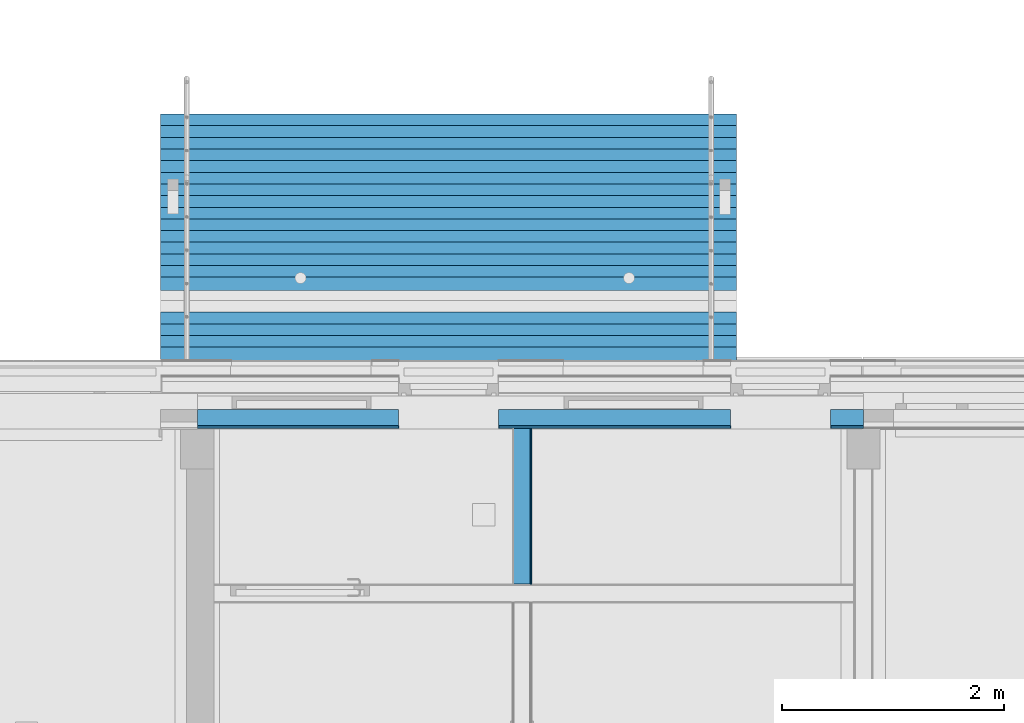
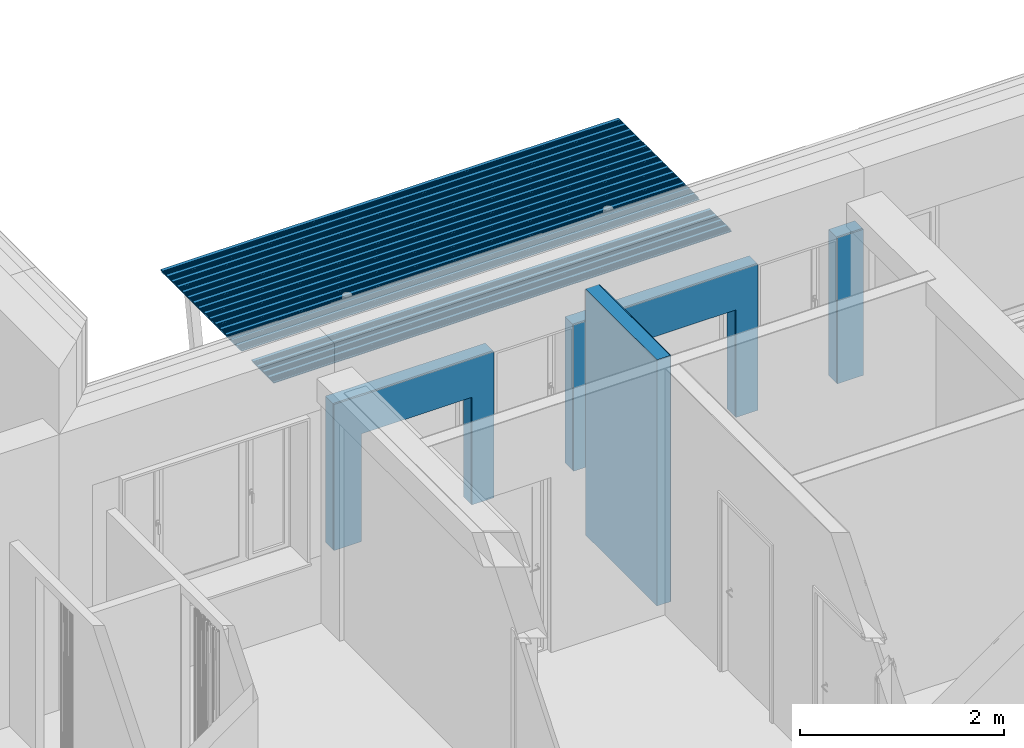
# One storey, part 35 of 418: 23 building element parts, 4 openings, 3 elements without a shape of their own.
"""IFC2X3 building model written with IfcOpenShell, lengths in millimetres."""

from ifc_helpers import new_model, entity, si_unit, converted_unit, derived_unit, money_unit, direction, frame, origin_with_axes, origin_2d_with_axis, place, context, subcontext, project, spatial, polyline, rectangle, outline, extrude, material, type_object, element, aggregate, save


model = new_model("IFC2X3")

# Units and contexts
model_context = context("Model", 3, precision=0.01, world=origin_with_axes(), true_north=direction((0.0, 1.0)))
body_context = subcontext(model_context, "Body", "Model", "MODEL_VIEW")
ifc_project = project(units=[si_unit("LENGTHUNIT", "METRE", prefix="MILLI"), si_unit("AREAUNIT", "SQUARE_METRE"), si_unit("VOLUMEUNIT", "CUBIC_METRE"), converted_unit("PLANEANGLEUNIT", "DEGREE", entity("IfcPlaneAngleMeasure", 0.0174532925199), si_unit("PLANEANGLEUNIT", "RADIAN"), dimensions=[0, 0, 0, 0, 0, 0, 0]), si_unit("SOLIDANGLEUNIT", "STERADIAN"), money_unit("EUR"), converted_unit("TIMEUNIT", "Year", entity("IfcTimeMeasure", 31556926.0), si_unit("TIMEUNIT", "SECOND"), dimensions=[0, 0, 1, 0, 0, 0, 0]), si_unit("MASSUNIT", "GRAM", prefix="KILO"), si_unit("THERMODYNAMICTEMPERATUREUNIT", "DEGREE_CELSIUS"), si_unit("LUMINOUSINTENSITYUNIT", "LUMEN"), si_unit("ENERGYUNIT", "JOULE", prefix="MEGA"), derived_unit("THERMALCONDUCTANCEUNIT", [(si_unit("POWERUNIT", "WATT"), 1), (si_unit("LENGTHUNIT", "METRE"), -1), (si_unit("THERMODYNAMICTEMPERATUREUNIT", "KELVIN"), -1)]), derived_unit("SPECIFICHEATCAPACITYUNIT", [(si_unit("ENERGYUNIT", "JOULE"), 1), (si_unit("MASSUNIT", "GRAM", prefix="KILO"), -1), (si_unit("THERMODYNAMICTEMPERATUREUNIT", "KELVIN"), -1)]), derived_unit("MASSDENSITYUNIT", [(si_unit("MASSUNIT", "GRAM", prefix="KILO"), 1), (si_unit("VOLUMEUNIT", "CUBIC_METRE"), -1)])], contexts=[model_context])

# Site, building, storey
site_placement = place(None, origin_with_axes())
site = spatial("IfcSite", under=ifc_project, at=site_placement, Name="Paldiski mnt 245/1, Tallinn, Harjumaa", CompositionType="COMPLEX")
building_placement = place(site_placement, origin_with_axes())
building = spatial("IfcBuilding", under=site, at=building_placement, Name="RKAS Hoone üldnimetus (kasutust iseloomustav) -> IFC Project Manager -> SOLIBRI", CompositionType="ELEMENT")
storey_placement = place(building_placement, origin_with_axes())
storey = spatial("IfcBuildingStorey", under=building, at=storey_placement, Name="Esimene korrus", CompositionType="ELEMENT", Elevation=0.0)

# Wall, building element parts
wall_type_1 = type_object("IfcWallType", Name="SS-04 170", PredefinedType="NOTDEFINED")
wall_1_placement = place(storey_placement, frame((-38430.0000894, -99.9999999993, 0.0), z_axis=(0.0, 0.0, 1.0), x_axis=(0.0, -1.0, 0.0)))
wall_1 = element("IfcWall", 1, at=wall_1_placement, inside=storey, type_object=wall_type_1, Name="SS-04")
ifc_material_1 = material(Name="Krohv")
building_element_part_1_placement = place(wall_1_placement, origin_with_axes())
building_element_part_1 = element("IfcBuildingElementPart", 2, at=building_element_part_1_placement, material=ifc_material_1, Name="Krohv", context=body_context, shape_type="SweptSolid", body=[
    extrude(outline(polyline([(0.0, -10.0), (1405.0, -10.0), (1405.0, 0.0), (0.0, 0.0), (0.0, -10.0)])), origin_with_axes(), (0.0, 0.0, 1.0), 2950.0),
])
ifc_material_2 = material(Name="FIBO 5")
building_element_part_2_placement = place(wall_1_placement, origin_with_axes())
building_element_part_2 = element("IfcBuildingElementPart", 3, at=building_element_part_2_placement, material=ifc_material_2, Name="FIBO 5", context=body_context, shape_type="SweptSolid", body=[
    extrude(outline(polyline([(0.0, -160.0), (1405.0, -160.0), (1405.0, -10.0), (0.0, -10.0), (0.0, -160.0)])), origin_with_axes(), (0.0, 0.0, 1.0), 2950.0),
])
aggregate(wall_1, [building_element_part_1, building_element_part_2])

# Proxy, building element parts
building_element_proxy_type = type_object("IfcBuildingElementProxyType", Name="Varikatus_01_lagi laudis_01 2220 x 21", PredefinedType="NOTDEFINED")
proxy_placement = place(storey_placement, frame((-41771.4167035, 2729.57010493, 2580.99999904), z_axis=(0.0, 0.0, 1.0), x_axis=(1.0, 0.0, 0.0)))
proxy = element("IfcBuildingElementProxy", 4, at=proxy_placement, inside=storey, type_object=building_element_proxy_type, Name="Varikatus")
ifc_material_3 = material(Name="Laudis 5072 Honka 45 horisontaalne raastas")
building_element_part_3_placement = place(proxy_placement, origin_with_axes())
building_element_part_3 = element("IfcBuildingElementPart", 5, at=building_element_part_3_placement, material=ifc_material_3, Name="Laudis 5072 Honka 45 horisontaalne raastas", context=body_context, shape_type="SweptSolid", body=[
    extrude(outline(polyline([(20.0000000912, -20.9999999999), (119.99999978, -20.9999999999), (120.000000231, -11.0000004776), (100.00000065, -10.999999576), (99.9999996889, 1.61838542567e-07), (85.4238126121, 5.2358295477e-07), (85.4238123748, -6.99999898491), (79.7831439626, -6.9999996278), (79.7831429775, 8.83371598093e-07), (64.9546506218, -3.56328300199e-08), (64.9546503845, -6.99999954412), (58.8277097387, -6.99999997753), (58.8277099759, -4.69029259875e-07), (43.8885928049, -3.47782691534e-07), (43.8885925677, -6.99999985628), (37.5260955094, -6.99999955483), (37.5260945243, 9.56347889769e-07), (0.0, 0.0), (-3.55868667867e-07, -10.4999992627), (20.0000002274, -10.499998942), (20.0000000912, -20.9999999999)])), frame((0.0, 0.0, 0.0), z_axis=(-1.0, 0.0, 0.0), x_axis=(0.0, -1.0, 0.0)), (0.0, 0.0, -1.0), 5189.74975038),
])
building_element_part_4_placement = place(proxy_placement, origin_with_axes())
building_element_part_4 = element("IfcBuildingElementPart", 6, at=building_element_part_4_placement, material=ifc_material_3, Name="Laudis 5072 Honka 45 horisontaalne raastas", context=body_context, shape_type="SweptSolid", body=[
    extrude(outline(polyline([(125.135728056, -20.9999999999), (225.135727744, -20.9999999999), (225.135728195, -11.0000004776), (205.135728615, -10.999999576), (205.135727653, 1.61839430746e-07), (190.559540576, 5.23583842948e-07), (190.559540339, -6.99999898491), (184.918871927, -6.9999996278), (184.918870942, 8.83374262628e-07), (170.090378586, -3.56301654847e-08), (170.090378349, -6.99999954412), (163.963437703, -6.99999997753), (163.96343794, -4.69028371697e-07), (149.024320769, -3.47782247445e-07), (149.024320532, -6.99999985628), (142.661823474, -6.99999955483), (142.661822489, 9.56348777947e-07), (105.135727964, 0.0), (105.135727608, -10.4999992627), (125.135728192, -10.499998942), (125.135728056, -20.9999999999)])), frame((0.0, 0.0, 0.0), z_axis=(-1.0, 0.0, 0.0), x_axis=(0.0, -1.0, 0.0)), (0.0, 0.0, -1.0), 5189.74975038),
])
building_element_part_5_placement = place(proxy_placement, origin_with_axes())
building_element_part_5 = element("IfcBuildingElementPart", 7, at=building_element_part_5_placement, material=ifc_material_3, Name="Laudis 5072 Honka 45 horisontaalne raastas", context=body_context, shape_type="SweptSolid", body=[
    extrude(outline(polyline([(230.27145602, -20.9999999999), (330.271455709, -20.9999999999), (330.27145616, -11.0000004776), (310.271456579, -10.999999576), (310.271455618, 1.61839874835e-07), (295.695268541, 5.23584731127e-07), (295.695268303, -6.99999898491), (290.054599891, -6.9999996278), (290.054598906, 8.83375150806e-07), (275.22610655, -3.56292773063e-08), (275.226106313, -6.99999954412), (269.099165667, -6.99999997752), (269.099165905, -4.69027927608e-07), (254.160048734, -3.47781359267e-07), (254.160048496, -6.99999985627), (247.797551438, -6.99999955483), (247.797550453, 9.56348777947e-07), (210.271455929, 0.0), (210.271455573, -10.4999992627), (230.271456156, -10.499998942), (230.27145602, -20.9999999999)])), frame((0.0, 0.0, 0.0), z_axis=(-1.0, 0.0, 0.0), x_axis=(0.0, -1.0, 0.0)), (0.0, 0.0, -1.0), 5189.74975038),
])
building_element_part_6_placement = place(proxy_placement, origin_with_axes())
building_element_part_6 = element("IfcBuildingElementPart", 8, at=building_element_part_6_placement, material=ifc_material_3, Name="Laudis 5072 Honka 45 horisontaalne raastas", context=body_context, shape_type="SweptSolid", body=[
    extrude(outline(polyline([(335.27145602, -20.9999999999), (435.271455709, -20.9999999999), (435.27145616, -11.0000004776), (415.271456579, -10.999999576), (415.271455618, 1.61842983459e-07), (400.695268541, 5.23587395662e-07), (400.695268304, -6.99999898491), (395.054599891, -6.9999996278), (395.054598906, 8.8337337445e-07), (380.22610655, -3.56310536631e-08), (380.226106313, -6.99999954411), (374.099165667, -6.99999997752), (374.099165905, -4.69027483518e-07), (359.160048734, -3.47778250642e-07), (359.160048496, -6.99999985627), (352.797551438, -6.99999955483), (352.797550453, 9.56352330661e-07), (315.271455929, 0.0), (315.271455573, -10.4999992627), (335.271456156, -10.499998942), (335.27145602, -20.9999999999)])), frame((0.0, 0.0, 0.0), z_axis=(-1.0, 0.0, 0.0), x_axis=(0.0, -1.0, 0.0)), (0.0, 0.0, -1.0), 5189.74975038),
])
building_element_part_7_placement = place(proxy_placement, origin_with_axes())
building_element_part_7 = element("IfcBuildingElementPart", 9, at=building_element_part_7_placement, material=ifc_material_3, Name="Laudis 5072 Honka 45 horisontaalne raastas", context=body_context, shape_type="SweptSolid", body=[
    extrude(outline(polyline([(440.27145602, -20.9999999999), (540.271455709, -20.9999999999), (540.27145616, -11.0000004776), (520.271456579, -10.999999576), (520.271455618, 1.61841207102e-07), (505.695268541, 5.23587839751e-07), (505.695268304, -6.99999898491), (500.054599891, -6.9999996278), (500.054598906, 8.83376927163e-07), (485.22610655, -3.56279450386e-08), (485.226106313, -6.99999954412), (479.099165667, -6.99999997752), (479.099165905, -4.69026151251e-07), (464.160048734, -3.47777806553e-07), (464.160048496, -6.99999985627), (457.797551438, -6.99999955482), (457.797550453, 9.56350110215e-07), (420.271455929, 0.0), (420.271455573, -10.4999992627), (440.271456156, -10.499998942), (440.27145602, -20.9999999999)])), frame((0.0, 0.0, 0.0), z_axis=(-1.0, 0.0, 0.0), x_axis=(0.0, -1.0, 0.0)), (0.0, 0.0, -1.0), 5189.74975038),
])
building_element_part_8_placement = place(proxy_placement, origin_with_axes())
building_element_part_8 = element("IfcBuildingElementPart", 10, at=building_element_part_8_placement, material=ifc_material_3, Name="Laudis 5072 Honka 45 horisontaalne raastas", context=body_context, shape_type="SweptSolid", body=[
    extrude(outline(polyline([(545.216857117, -20.9999999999), (645.216856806, -20.9999999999), (645.216857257, -11.0000004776), (625.216857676, -10.999999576), (625.216856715, 1.61841207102e-07), (610.640669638, 5.23587839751e-07), (610.640669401, -6.99999898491), (605.000000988, -6.9999996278), (605.000000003, 8.83376927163e-07), (590.171507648, -3.56279450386e-08), (590.17150741, -6.99999954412), (584.044566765, -6.99999997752), (584.044567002, -4.69026151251e-07), (569.105449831, -3.47777806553e-07), (569.105449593, -6.99999985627), (562.742952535, -6.99999955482), (562.74295155, 9.56350110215e-07), (525.216857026, 0.0), (525.21685667, -10.4999992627), (545.216857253, -10.499998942), (545.216857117, -20.9999999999)])), frame((0.0, 0.0, 0.0), z_axis=(-1.0, 0.0, 0.0), x_axis=(0.0, -1.0, 0.0)), (0.0, 0.0, -1.0), 5189.74975038),
])
building_element_part_9_placement = place(proxy_placement, origin_with_axes())
building_element_part_9 = element("IfcBuildingElementPart", 11, at=building_element_part_9_placement, material=ifc_material_3, Name="Laudis 5072 Honka 45 horisontaalne raastas", context=body_context, shape_type="SweptSolid", body=[
    extrude(outline(polyline([(650.162258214, -20.9999999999), (750.162257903, -20.9999999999), (750.162258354, -11.0000004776), (730.162258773, -10.999999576), (730.162257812, 1.61841207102e-07), (715.586070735, 5.23587839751e-07), (715.586070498, -6.99999898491), (709.945402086, -6.9999996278), (709.9454011, 8.83376927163e-07), (695.116908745, -3.56279450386e-08), (695.116908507, -6.99999954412), (688.989967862, -6.99999997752), (688.989968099, -4.69026151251e-07), (674.050850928, -3.47777806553e-07), (674.050850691, -6.99999985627), (667.688353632, -6.99999955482), (667.688352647, 9.56350110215e-07), (630.162258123, 0.0), (630.162257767, -10.4999992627), (650.16225835, -10.499998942), (650.162258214, -20.9999999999)])), frame((0.0, 0.0, 0.0), z_axis=(-1.0, 0.0, 0.0), x_axis=(0.0, -1.0, 0.0)), (0.0, 0.0, -1.0), 5189.74975038),
])
building_element_part_10_placement = place(proxy_placement, origin_with_axes())
building_element_part_10 = element("IfcBuildingElementPart", 12, at=building_element_part_10_placement, material=ifc_material_3, Name="Laudis 5072 Honka 45 horisontaalne raastas", context=body_context, shape_type="SweptSolid", body=[
    extrude(outline(polyline([(755.162258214, -20.9999999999), (855.162257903, -20.9999999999), (855.162258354, -11.0000004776), (835.162258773, -10.999999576), (835.162257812, 1.61842983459e-07), (820.586070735, 5.23587395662e-07), (820.586070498, -6.99999898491), (814.945402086, -6.9999996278), (814.9454011, 8.8337337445e-07), (800.116908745, -3.56310536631e-08), (800.116908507, -6.99999954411), (793.989967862, -6.99999997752), (793.989968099, -4.69027483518e-07), (779.050850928, -3.47778250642e-07), (779.050850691, -6.99999985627), (772.688353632, -6.99999955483), (772.688352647, 9.56352330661e-07), (735.162258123, 0.0), (735.162257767, -10.4999992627), (755.16225835, -10.499998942), (755.162258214, -20.9999999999)])), frame((0.0, 0.0, 0.0), z_axis=(-1.0, 0.0, 0.0), x_axis=(0.0, -1.0, 0.0)), (0.0, 0.0, -1.0), 5189.74975038),
])
building_element_part_11_placement = place(proxy_placement, origin_with_axes())
building_element_part_11 = element("IfcBuildingElementPart", 13, at=building_element_part_11_placement, material=ifc_material_3, Name="Laudis 5072 Honka 45 horisontaalne raastas", context=body_context, shape_type="SweptSolid", body=[
    extrude(outline(polyline([(860.162258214, -20.9999999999), (960.162257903, -20.9999999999), (960.162258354, -11.0000004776), (940.162258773, -10.999999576), (940.162257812, 1.61841207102e-07), (925.586070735, 5.23587839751e-07), (925.586070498, -6.99999898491), (919.945402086, -6.9999996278), (919.9454011, 8.83376927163e-07), (905.116908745, -3.56279450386e-08), (905.116908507, -6.99999954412), (898.989967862, -6.99999997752), (898.989968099, -4.69026151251e-07), (884.050850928, -3.47777806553e-07), (884.050850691, -6.99999985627), (877.688353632, -6.99999955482), (877.688352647, 9.56350110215e-07), (840.162258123, 0.0), (840.162257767, -10.4999992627), (860.16225835, -10.499998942), (860.162258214, -20.9999999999)])), frame((0.0, 0.0, 0.0), z_axis=(-1.0, 0.0, 0.0), x_axis=(0.0, -1.0, 0.0)), (0.0, 0.0, -1.0), 5189.74975038),
])
building_element_part_12_placement = place(proxy_placement, origin_with_axes())
building_element_part_12 = element("IfcBuildingElementPart", 14, at=building_element_part_12_placement, material=ifc_material_3, Name="Laudis 5072 Honka 45 horisontaalne raastas", context=body_context, shape_type="SweptSolid", body=[
    extrude(outline(polyline([(965.107659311, -20.9999999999), (1065.107659, -20.9999999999), (1065.10765945, -11.0000004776), (1045.10765987, -10.999999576), (1045.10765891, 1.61841207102e-07), (1030.53147183, 5.23587839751e-07), (1030.53147159, -6.99999898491), (1024.89080318, -6.9999996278), (1024.8908022, 8.83376927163e-07), (1010.06230984, -3.56279450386e-08), (1010.0623096, -6.99999954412), (1003.93536896, -6.99999997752), (1003.9353692, -4.69026151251e-07), (988.996252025, -3.47777806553e-07), (988.996251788, -6.99999985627), (982.633754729, -6.99999955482), (982.633753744, 9.56350110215e-07), (945.10765922, 0.0), (945.107658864, -10.4999992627), (965.107659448, -10.499998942), (965.107659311, -20.9999999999)])), frame((0.0, 0.0, 0.0), z_axis=(-1.0, 0.0, 0.0), x_axis=(0.0, -1.0, 0.0)), (0.0, 0.0, -1.0), 5189.74975038),
])
building_element_part_13_placement = place(proxy_placement, origin_with_axes())
building_element_part_13 = element("IfcBuildingElementPart", 15, at=building_element_part_13_placement, material=ifc_material_3, Name="Laudis 5072 Honka 45 horisontaalne raastas", context=body_context, shape_type="SweptSolid", body=[
    extrude(outline(polyline([(1070.05306041, -20.9999999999), (1170.0530601, -20.9999999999), (1170.05306055, -11.0000004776), (1150.05306097, -10.999999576), (1150.05306001, 1.61841207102e-07), (1135.47687293, 5.23587839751e-07), (1135.47687269, -6.99999898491), (1129.83620428, -6.9999996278), (1129.83620329, 8.83376927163e-07), (1115.00771094, -3.56279450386e-08), (1115.0077107, -6.99999954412), (1108.88077006, -6.99999997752), (1108.88077029, -4.69026151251e-07), (1093.94165312, -3.47777806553e-07), (1093.94165288, -6.99999985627), (1087.57915583, -6.99999955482), (1087.57915484, 9.56350110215e-07), (1050.05306032, 0.0), (1050.05305996, -10.4999992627), (1070.05306054, -10.499998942), (1070.05306041, -20.9999999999)])), frame((0.0, 0.0, 0.0), z_axis=(-1.0, 0.0, 0.0), x_axis=(0.0, -1.0, 0.0)), (0.0, 0.0, -1.0), 5189.74975038),
])
building_element_part_14_placement = place(proxy_placement, origin_with_axes())
building_element_part_14 = element("IfcBuildingElementPart", 16, at=building_element_part_14_placement, material=ifc_material_3, Name="Laudis 5072 Honka 45 horisontaalne raastas", context=body_context, shape_type="SweptSolid", body=[
    extrude(outline(polyline([(1174.99846151, -20.9999999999), (1274.99846119, -20.9999999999), (1274.99846165, -11.0000004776), (1254.99846206, -10.999999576), (1254.9984611, 1.61841207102e-07), (1240.42227403, 5.23587839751e-07), (1240.42227379, -6.99999898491), (1234.78160538, -6.9999996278), (1234.78160439, 8.83376927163e-07), (1219.95311204, -3.56279450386e-08), (1219.9531118, -6.99999954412), (1213.82617115, -6.99999997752), (1213.82617139, -4.69026151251e-07), (1198.88705422, -3.47777806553e-07), (1198.88705398, -6.99999985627), (1192.52455692, -6.99999955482), (1192.52455594, 9.56350110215e-07), (1154.99846141, 0.0), (1154.99846106, -10.4999992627), (1174.99846164, -10.499998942), (1174.99846151, -20.9999999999)])), frame((0.0, 0.0, 0.0), z_axis=(-1.0, 0.0, 0.0), x_axis=(0.0, -1.0, 0.0)), (0.0, 0.0, -1.0), 5189.74975038),
])
building_element_part_15_placement = place(proxy_placement, origin_with_axes())
building_element_part_15 = element("IfcBuildingElementPart", 17, at=building_element_part_15_placement, material=ifc_material_3, Name="Laudis 5072 Honka 45 horisontaalne raastas", context=body_context, shape_type="SweptSolid", body=[
    extrude(outline(polyline([(1279.9438626, -20.9999999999), (1379.94386229, -20.9999999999), (1379.94386274, -11.0000004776), (1359.94386316, -10.999999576), (1359.9438622, 1.61841207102e-07), (1345.36767512, 5.23587839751e-07), (1345.36767489, -6.99999898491), (1339.72700647, -6.9999996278), (1339.72700549, 8.83376927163e-07), (1324.89851313, -3.56279450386e-08), (1324.8985129, -6.99999954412), (1318.77157225, -6.99999997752), (1318.77157249, -4.69026151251e-07), (1303.83245532, -3.47777806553e-07), (1303.83245508, -6.99999985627), (1297.46995802, -6.99999955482), (1297.46995704, 9.56350110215e-07), (1259.94386251, 0.0), (1259.94386216, -10.4999992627), (1279.94386274, -10.499998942), (1279.9438626, -20.9999999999)])), frame((0.0, 0.0, 0.0), z_axis=(-1.0, 0.0, 0.0), x_axis=(0.0, -1.0, 0.0)), (0.0, 0.0, -1.0), 5189.74975038),
])
building_element_part_16_placement = place(proxy_placement, origin_with_axes())
building_element_part_16 = element("IfcBuildingElementPart", 18, at=building_element_part_16_placement, material=ifc_material_3, Name="Laudis 5072 Honka 45 horisontaalne raastas", context=body_context, shape_type="SweptSolid", body=[
    extrude(outline(polyline([(1384.9438626, -20.9999999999), (1484.94386229, -20.9999999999), (1484.94386274, -11.0000004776), (1464.94386316, -10.999999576), (1464.9438622, 1.61842983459e-07), (1450.36767512, 5.23587395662e-07), (1450.36767489, -6.99999898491), (1444.72700647, -6.9999996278), (1444.72700549, 8.8337337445e-07), (1429.89851313, -3.56310536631e-08), (1429.8985129, -6.99999954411), (1423.77157225, -6.99999997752), (1423.77157249, -4.69027483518e-07), (1408.83245532, -3.47778250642e-07), (1408.83245508, -6.99999985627), (1402.46995802, -6.99999955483), (1402.46995704, 9.56352330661e-07), (1364.94386251, 0.0), (1364.94386216, -10.4999992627), (1384.94386274, -10.499998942), (1384.9438626, -20.9999999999)])), frame((0.0, 0.0, 0.0), z_axis=(-1.0, 0.0, 0.0), x_axis=(0.0, -1.0, 0.0)), (0.0, 0.0, -1.0), 5189.74975038),
])
building_element_part_17_placement = place(proxy_placement, origin_with_axes())
building_element_part_17 = element("IfcBuildingElementPart", 19, at=building_element_part_17_placement, material=ifc_material_3, Name="Laudis 5072 Honka 45 horisontaalne raastas", context=body_context, shape_type="SweptSolid", body=[
    extrude(outline(polyline([(1489.9438626, -20.9999999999), (1589.94386229, -20.9999999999), (1589.94386274, -11.0000004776), (1569.94386316, -10.999999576), (1569.9438622, 1.61841207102e-07), (1555.36767512, 5.23587839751e-07), (1555.36767489, -6.99999898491), (1549.72700647, -6.9999996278), (1549.72700549, 8.83376927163e-07), (1534.89851313, -3.56279450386e-08), (1534.8985129, -6.99999954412), (1528.77157225, -6.99999997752), (1528.77157249, -4.69026151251e-07), (1513.83245532, -3.47777806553e-07), (1513.83245508, -6.99999985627), (1507.46995802, -6.99999955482), (1507.46995704, 9.56350110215e-07), (1469.94386251, 0.0), (1469.94386216, -10.4999992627), (1489.94386274, -10.499998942), (1489.9438626, -20.9999999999)])), frame((0.0, 0.0, 0.0), z_axis=(-1.0, 0.0, 0.0), x_axis=(0.0, -1.0, 0.0)), (0.0, 0.0, -1.0), 5189.74975038),
])
building_element_part_18_placement = place(proxy_placement, origin_with_axes())
building_element_part_18 = element("IfcBuildingElementPart", 20, at=building_element_part_18_placement, material=ifc_material_3, Name="Laudis 5072 Honka 45 horisontaalne raastas", context=body_context, shape_type="SweptSolid", body=[
    extrude(outline(polyline([(1804.8892637, -20.9999999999), (1904.88926339, -20.9999999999), (1904.88926384, -11.0000004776), (1884.88926426, -10.999999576), (1884.8892633, 1.61842983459e-07), (1870.31307622, 5.23587395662e-07), (1870.31307598, -6.99999898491), (1864.67240757, -6.9999996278), (1864.67240659, 8.8337337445e-07), (1849.84391423, -3.56310536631e-08), (1849.84391399, -6.99999954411), (1843.71697335, -6.99999997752), (1843.71697358, -4.69027483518e-07), (1828.77785641, -3.47778250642e-07), (1828.77785618, -6.99999985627), (1822.41535912, -6.99999955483), (1822.41535813, 9.56352330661e-07), (1784.88926361, 0.0), (1784.88926325, -10.4999992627), (1804.88926384, -10.499998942), (1804.8892637, -20.9999999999)])), frame((0.0, 0.0, 0.0), z_axis=(-1.0, 0.0, 0.0), x_axis=(0.0, -1.0, 0.0)), (0.0, 0.0, -1.0), 5189.74975038),
])
building_element_part_19_placement = place(proxy_placement, origin_with_axes())
building_element_part_19 = element("IfcBuildingElementPart", 21, at=building_element_part_19_placement, material=ifc_material_3, Name="Laudis 5072 Honka 45 horisontaalne raastas", context=body_context, shape_type="SweptSolid", body=[
    extrude(outline(polyline([(1909.8892637, -20.9999999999), (2009.88926339, -20.9999999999), (2009.88926384, -11.0000004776), (1989.88926426, -10.999999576), (1989.8892633, 1.61841207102e-07), (1975.31307622, 5.23587839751e-07), (1975.31307598, -6.99999898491), (1969.67240757, -6.9999996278), (1969.67240659, 8.83376927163e-07), (1954.84391423, -3.56279450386e-08), (1954.84391399, -6.99999954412), (1948.71697335, -6.99999997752), (1948.71697358, -4.69026151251e-07), (1933.77785641, -3.47777806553e-07), (1933.77785618, -6.99999985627), (1927.41535912, -6.99999955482), (1927.41535813, 9.56350110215e-07), (1889.88926361, 0.0), (1889.88926325, -10.4999992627), (1909.88926384, -10.499998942), (1909.8892637, -20.9999999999)])), frame((0.0, 0.0, 0.0), z_axis=(-1.0, 0.0, 0.0), x_axis=(0.0, -1.0, 0.0)), (0.0, 0.0, -1.0), 5189.74975038),
])
building_element_part_20_placement = place(proxy_placement, origin_with_axes())
building_element_part_20 = element("IfcBuildingElementPart", 22, at=building_element_part_20_placement, material=ifc_material_3, Name="Laudis 5072 Honka 45 horisontaalne raastas", context=body_context, shape_type="SweptSolid", body=[
    extrude(outline(polyline([(2014.8346648, -20.9999999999), (2114.83466449, -20.9999999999), (2114.83466494, -11.0000004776), (2094.83466536, -10.999999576), (2094.83466439, 1.61841207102e-07), (2080.25847732, 5.23587839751e-07), (2080.25847708, -6.99999898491), (2074.61780867, -6.9999996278), (2074.61780768, 8.83376927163e-07), (2059.78931533, -3.56279450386e-08), (2059.78931509, -6.99999954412), (2053.66237444, -6.99999997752), (2053.66237468, -4.69026151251e-07), (2038.72325751, -3.47777806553e-07), (2038.72325727, -6.99999985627), (2032.36076022, -6.99999955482), (2032.36075923, 9.56350110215e-07), (1994.83466471, 0.0), (1994.83466435, -10.4999992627), (2014.83466493, -10.499998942), (2014.8346648, -20.9999999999)])), frame((0.0, 0.0, 0.0), z_axis=(-1.0, 0.0, 0.0), x_axis=(0.0, -1.0, 0.0)), (0.0, 0.0, -1.0), 5189.74975038),
])
building_element_part_21_placement = place(proxy_placement, origin_with_axes())
building_element_part_21 = element("IfcBuildingElementPart", 23, at=building_element_part_21_placement, material=ifc_material_3, Name="Laudis 5072 Honka 45 horisontaalne raastas", context=body_context, shape_type="SweptSolid", body=[
    extrude(outline(polyline([(2119.8346648, -20.9999999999), (2219.83466449, -20.9999999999), (2219.83466494, -11.0000004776), (2199.83466536, -10.999999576), (2199.83466439, 1.61842983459e-07), (2185.25847732, 5.23587395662e-07), (2185.25847708, -6.99999898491), (2179.61780867, -6.9999996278), (2179.61780768, 8.8337337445e-07), (2164.78931533, -3.56310536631e-08), (2164.78931509, -6.99999954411), (2158.66237444, -6.99999997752), (2158.66237468, -4.69027483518e-07), (2143.72325751, -3.47778250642e-07), (2143.72325727, -6.99999985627), (2137.36076022, -6.99999955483), (2137.36075923, 9.56352330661e-07), (2099.83466471, 0.0), (2099.83466435, -10.4999992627), (2119.83466493, -10.499998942), (2119.8346648, -20.9999999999)])), frame((0.0, 0.0, 0.0), z_axis=(-1.0, 0.0, 0.0), x_axis=(0.0, -1.0, 0.0)), (0.0, 0.0, -1.0), 5189.74975038),
])
aggregate(proxy, [building_element_part_3, building_element_part_4, building_element_part_5, building_element_part_6, building_element_part_7, building_element_part_8, building_element_part_9, building_element_part_10, building_element_part_11, building_element_part_12, building_element_part_13, building_element_part_14, building_element_part_15, building_element_part_16, building_element_part_17, building_element_part_18, building_element_part_19, building_element_part_20, building_element_part_21])

# Wall, openings, building element parts
wall_type_2 = type_object("IfcWallType", Name="VS-06.2_sisekiht 170", PredefinedType="NOTDEFINED")
wall_2_placement = place(storey_placement, frame((-35440.0, -99.9999999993, 810.0), z_axis=(0.0, 0.0, 1.0), x_axis=(-1.0, 0.0, 0.0)))
wall_2 = element("IfcWall", 24, at=wall_2_placement, inside=storey, type_object=wall_type_2, Name="VS-06.2")
opening_1_placement = place(wall_2_placement, frame((746.0, 0.0, 0.0), z_axis=(0.0, 0.0, 1.0), x_axis=(1.0, 0.0, 0.0)))
element("IfcOpeningElement", 25, at=opening_1_placement, cuts=wall_2, Name="AVA", context=body_context, shape_type="SweptSolid", body=[
    extrude(rectangle(XDim=900.0, YDim=1750.0, at=origin_2d_with_axis()), frame((0.0, 150.0, 875.0), z_axis=(0.0, -1.0, 0.0), x_axis=(1.0, 0.0, 0.0)), (0.0, 0.0, -1.0), 320.0),
    extrude(rectangle(XDim=900.0, YDim=1750.0, at=origin_2d_with_axis()), frame((0.0, 150.0, 875.0), z_axis=(0.0, 1.0, 0.0), x_axis=(1.0, 0.0, 0.0)), (0.0, 0.0, -1.0), 320.0),
])
opening_2_placement = place(wall_2_placement, frame((3736.0, 0.0, 0.0), z_axis=(0.0, 0.0, 1.0), x_axis=(1.0, 0.0, 0.0)))
element("IfcOpeningElement", 26, at=opening_2_placement, cuts=wall_2, Name="AVA", context=body_context, shape_type="SweptSolid", body=[
    extrude(rectangle(XDim=900.0, YDim=1750.0, at=origin_2d_with_axis()), frame((0.0, 150.0, 875.0), z_axis=(0.0, -1.0, 0.0), x_axis=(1.0, 0.0, 0.0)), (0.0, 0.0, -1.0), 320.0),
    extrude(rectangle(XDim=900.0, YDim=1750.0, at=origin_2d_with_axis()), frame((0.0, 150.0, 875.0), z_axis=(0.0, 1.0, 0.0), x_axis=(1.0, 0.0, 0.0)), (0.0, 0.0, -1.0), 320.0),
])
opening_3_placement = place(wall_2_placement, frame((5061.0, 0.0, -810.0), z_axis=(0.0, 0.0, 1.0), x_axis=(1.0, 0.0, 0.0)))
element("IfcOpeningElement", 27, at=opening_3_placement, cuts=wall_2, Name="AVA", context=body_context, shape_type="SweptSolid", body=[
    extrude(rectangle(XDim=1250.0, YDim=2100.0, at=origin_2d_with_axis()), frame((0.0, -99.9999999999, 1050.0), z_axis=(0.0, -1.0, 0.0), x_axis=(1.0, 0.0, 0.0)), (0.0, 0.0, -1.0), 270.0),
    extrude(rectangle(XDim=1250.0, YDim=2100.0, at=origin_2d_with_axis()), frame((0.0, -99.9999999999, 1050.0), z_axis=(0.0, 1.0, 0.0), x_axis=(1.0, 0.0, 0.0)), (0.0, 0.0, -1.0), 270.0),
])
opening_4_placement = place(wall_2_placement, frame((2071.0, 0.0, -810.0), z_axis=(0.0, 0.0, 1.0), x_axis=(1.0, 0.0, 0.0)))
element("IfcOpeningElement", 28, at=opening_4_placement, cuts=wall_2, Name="AVA", context=body_context, shape_type="SweptSolid", body=[
    extrude(rectangle(XDim=1250.0, YDim=2100.0, at=origin_2d_with_axis()), frame((0.0, -100.0, 1050.0), z_axis=(0.0, -1.0, 0.0), x_axis=(1.0, 0.0, 0.0)), (0.0, 0.0, -1.0), 270.0),
    extrude(rectangle(XDim=1250.0, YDim=2100.0, at=origin_2d_with_axis()), frame((0.0, -100.0, 1050.0), z_axis=(0.0, 1.0, 0.0), x_axis=(1.0, 0.0, 0.0)), (0.0, 0.0, -1.0), 270.0),
])
ifc_material_4 = material(Name="BAUROC CLASSIC 3 MPa kergplokk")
building_element_part_22_placement = place(wall_2_placement, origin_with_axes())
building_element_part_22 = element("IfcBuildingElementPart", 29, at=building_element_part_22_placement, material=ifc_material_4, Name="BAUROC CLASSIC 3 MPa kergplokk", context=body_context, shape_type="SweptSolid", body=[
    extrude(outline(polyline([(0.0, -170.0), (6000.0, -170.0), (6000.0, -20.0), (0.0, -20.0), (0.0, -170.0)])), origin_with_axes(), (0.0, 0.0, 1.0), 1750.0),
])
ifc_material_5 = material(Name="Tasanduskrohv")
building_element_part_23_placement = place(wall_2_placement, origin_with_axes())
building_element_part_23 = element("IfcBuildingElementPart", 30, at=building_element_part_23_placement, material=ifc_material_5, Name="Tasanduskrohv", context=body_context, shape_type="SweptSolid", body=[
    extrude(outline(polyline([(0.0, -20.0), (6000.0, -20.0), (6000.0, 0.0), (0.0, 0.0), (0.0, -20.0)])), origin_with_axes(), (0.0, 0.0, 1.0), 1750.0),
])
aggregate(wall_2, [building_element_part_22, building_element_part_23])

save(model, "model.ifc")
